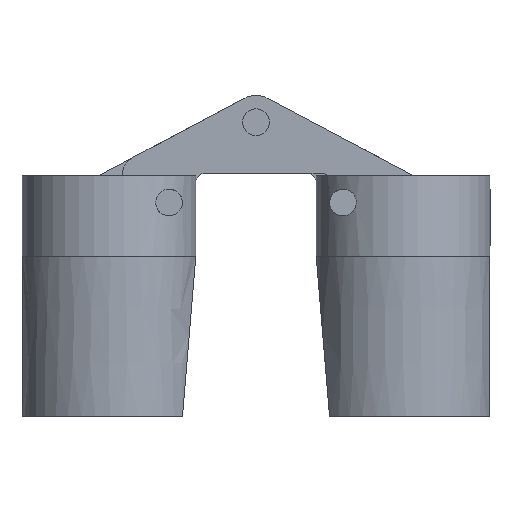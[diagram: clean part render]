
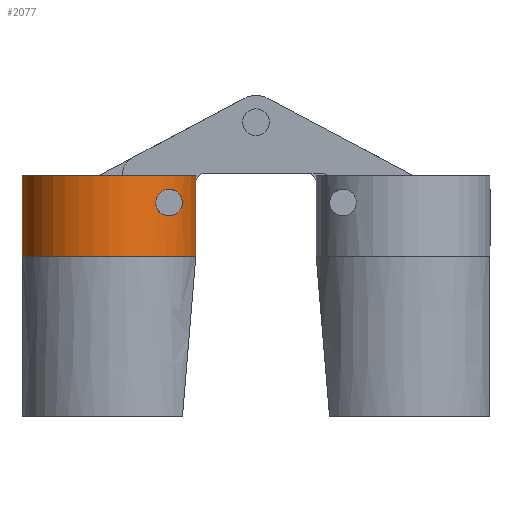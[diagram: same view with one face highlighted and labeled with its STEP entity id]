
A CAD part, front view. The second image highlights one B-rep face of the part: STEP entity #2077.
In plain terms, the highlighted cylindrical face has radius 6.5 mm (diameter 13 mm), a partial arc.
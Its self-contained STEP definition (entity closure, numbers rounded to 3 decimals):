
#242 = CIRCLE ( 'NONE', #781, 6.5 ) ;
#270 = CIRCLE ( 'NONE', #780, 6.5 ) ;
#274 = LINE ( 'NONE', #3056, #305 ) ;
#305 = VECTOR ( 'NONE', #3011, 1000. ) ;
#362 = VERTEX_POINT ( 'NONE', #1120 ) ;
#375 = VERTEX_POINT ( 'NONE', #1170 ) ;
#419 = VERTEX_POINT ( 'NONE', #1433 ) ;
#451 = VERTEX_POINT ( 'NONE', #1430 ) ;
#459 = VERTEX_POINT ( 'NONE', #1421 ) ;
#461 = VERTEX_POINT ( 'NONE', #1440 ) ;
#544 = FACE_OUTER_BOUND ( 'NONE', #1694, .T. ) ;
#554 = CYLINDRICAL_SURFACE ( 'NONE', #803, 6.5 ) ;
#561 = FACE_BOUND ( 'NONE', #1882, .T. ) ;
#689 = EDGE_CURVE ( 'NONE', #451, #461, #1446, .T. ) ;
#701 = EDGE_CURVE ( 'NONE', #375, #362, #270, .T. ) ;
#703 = EDGE_CURVE ( 'NONE', #419, #459, #242, .T. ) ;
#718 = EDGE_CURVE ( 'NONE', #419, #375, #274, .T. ) ;
#780 = AXIS2_PLACEMENT_3D ( 'NONE', #2957, #2295, #2713 ) ;
#781 = AXIS2_PLACEMENT_3D ( 'NONE', #2986, #2857, #2641 ) ;
#803 = AXIS2_PLACEMENT_3D ( 'NONE', #2620, #2874, #2544 ) ;
#1120 = CARTESIAN_POINT ( 'NONE',  ( -6.5, 23.5, -0.5 ) ) ;
#1170 = CARTESIAN_POINT ( 'NONE',  ( 6.5, 23.5, -0.5 ) ) ;
#1237 = CARTESIAN_POINT ( 'NONE',  ( -4.5, 28.19, -3.5 ) ) ;
#1244 = CARTESIAN_POINT ( 'NONE',  ( -4.391, 28.295, -3.5 ) ) ;
#1248 = CARTESIAN_POINT ( 'NONE',  ( -4.278, 28.396, -3.482 ) ) ;
#1260 = CARTESIAN_POINT ( 'NONE',  ( -4.057, 28.58, -3.404 ) ) ;
#1262 = CARTESIAN_POINT ( 'NONE',  ( -3.946, 28.667, -3.343 ) ) ;
#1263 = CARTESIAN_POINT ( 'NONE',  ( -3.747, 28.812, -3.171 ) ) ;
#1270 = CARTESIAN_POINT ( 'NONE',  ( -3.659, 28.873, -3.06 ) ) ;
#1271 = CARTESIAN_POINT ( 'NONE',  ( -3.534, 28.956, -2.798 ) ) ;
#1285 = CARTESIAN_POINT ( 'NONE',  ( -3.5, 28.977, -2.648 ) ) ;
#1289 = CARTESIAN_POINT ( 'NONE',  ( -3.5, 28.977, -2.348 ) ) ;
#1292 = CARTESIAN_POINT ( 'NONE',  ( -3.535, 28.955, -2.199 ) ) ;
#1293 = CARTESIAN_POINT ( 'NONE',  ( -3.661, 28.872, -1.937 ) ) ;
#1301 = CARTESIAN_POINT ( 'NONE',  ( -3.749, 28.811, -1.827 ) ) ;
#1312 = CARTESIAN_POINT ( 'NONE',  ( -3.947, 28.666, -1.656 ) ) ;
#1316 = CARTESIAN_POINT ( 'NONE',  ( -4.059, 28.579, -1.595 ) ) ;
#1332 = CARTESIAN_POINT ( 'NONE',  ( -4.5, 28.19, -1.5 ) ) ;
#1376 = CARTESIAN_POINT ( 'NONE',  ( -4.393, 28.293, -1.5 ) ) ;
#1393 = CARTESIAN_POINT ( 'NONE',  ( -4.28, 28.394, -1.518 ) ) ;
#1421 = CARTESIAN_POINT ( 'NONE',  ( -6.5, 23.5, -6.5 ) ) ;
#1430 = CARTESIAN_POINT ( 'NONE',  ( -4.5, 28.19, -1.5 ) ) ;
#1433 = CARTESIAN_POINT ( 'NONE',  ( 6.5, 23.5, -6.5 ) ) ;
#1440 = CARTESIAN_POINT ( 'NONE',  ( -4.5, 28.19, -3.5 ) ) ;
#1446 = B_SPLINE_CURVE_WITH_KNOTS ( 'NONE', 3,
 ( #1332, #1376, #1393, #1316, #1312, #1301, #1293, #1292, #1289, #1285, #1271, #1270, #1263, #1262, #1260, #1248, #1244, #1237 ),
 .UNSPECIFIED., .F., .F.,
 ( 4, 2, 2, 2, 2, 2, 2, 2, 4 ),
 ( 0.004, 0.004, 0.005, 0.005, 0.006, 0.006, 0.007, 0.007, 0.008 ),
 .UNSPECIFIED. ) ;
#1694 = EDGE_LOOP ( 'NONE', ( #3437, #3420, #3340, #3433 ) ) ;
#1709 = ORIENTED_EDGE ( 'NONE', *, *, #689, .F. ) ;
#1882 = EDGE_LOOP ( 'NONE', ( #3357, #1709 ) ) ;
#1993 = EDGE_CURVE ( 'NONE', #362, #459, #3930, .T. ) ;
#2056 = B_SPLINE_CURVE_WITH_KNOTS ( 'NONE', 3,
 ( #2491, #2889, #2590, #2402, #2829, #2677, #2667, #2205, #2464, #2433, #2360, #2396, #2438, #2358, #2443, #2806, #2797, #2482, #2337, #2479, #2480, #2334, #2333, #2474 ),
 .UNSPECIFIED., .F., .F.,
 ( 4, 2, 2, 2, 2, 2, 2, 2, 2, 2, 2, 4 ),
 ( 0., 0.001, 0.001, 0.001, 0.002, 0.002, 0.002, 0.002, 0.003, 0.003, 0.004, 0.004 ),
 .UNSPECIFIED. ) ;
#2077 = ADVANCED_FACE ( 'NONE', ( #561, #544 ), #554, .T. ) ;
#2156 = EDGE_CURVE ( 'NONE', #461, #451, #2056, .T. ) ;
#2205 = CARTESIAN_POINT ( 'NONE',  ( -5.319, 27.237, -3.077 ) ) ;
#2295 = DIRECTION ( 'NONE',  ( 0., 0., 1. ) ) ;
#2333 = CARTESIAN_POINT ( 'NONE',  ( -4.622, 28.074, -1.5 ) ) ;
#2334 = CARTESIAN_POINT ( 'NONE',  ( -4.739, 27.952, -1.522 ) ) ;
#2337 = CARTESIAN_POINT ( 'NONE',  ( -5.243, 27.345, -1.82 ) ) ;
#2358 = CARTESIAN_POINT ( 'NONE',  ( -5.5, 26.964, -2.417 ) ) ;
#2360 = CARTESIAN_POINT ( 'NONE',  ( -5.449, 27.044, -2.826 ) ) ;
#2396 = CARTESIAN_POINT ( 'NONE',  ( -5.488, 26.983, -2.673 ) ) ;
#2402 = CARTESIAN_POINT ( 'NONE',  ( -4.957, 27.707, -3.397 ) ) ;
#2419 = CARTESIAN_POINT ( 'NONE',  ( -6.5, 23.5, -6.5 ) ) ;
#2433 = CARTESIAN_POINT ( 'NONE',  ( -5.421, 27.087, -2.896 ) ) ;
#2438 = CARTESIAN_POINT ( 'NONE',  ( -5.5, 26.964, -2.588 ) ) ;
#2443 = CARTESIAN_POINT ( 'NONE',  ( -5.489, 26.982, -2.332 ) ) ;
#2464 = CARTESIAN_POINT ( 'NONE',  ( -5.356, 27.183, -3.021 ) ) ;
#2474 = CARTESIAN_POINT ( 'NONE',  ( -4.5, 28.19, -1.5 ) ) ;
#2479 = CARTESIAN_POINT ( 'NONE',  ( -5.06, 27.583, -1.662 ) ) ;
#2480 = CARTESIAN_POINT ( 'NONE',  ( -4.959, 27.705, -1.604 ) ) ;
#2482 = CARTESIAN_POINT ( 'NONE',  ( -5.325, 27.229, -1.917 ) ) ;
#2491 = CARTESIAN_POINT ( 'NONE',  ( -4.5, 28.19, -3.5 ) ) ;
#2544 = DIRECTION ( 'NONE',  ( 1., 0., 0. ) ) ;
#2590 = CARTESIAN_POINT ( 'NONE',  ( -4.739, 27.952, -3.478 ) ) ;
#2620 = CARTESIAN_POINT ( 'NONE',  ( 0., 23.5, -6.5 ) ) ;
#2641 = DIRECTION ( 'NONE',  ( 1., 0., 0. ) ) ;
#2667 = CARTESIAN_POINT ( 'NONE',  ( -5.239, 27.348, -3.177 ) ) ;
#2677 = CARTESIAN_POINT ( 'NONE',  ( -5.196, 27.406, -3.221 ) ) ;
#2713 = DIRECTION ( 'NONE',  ( 1., 0., 0. ) ) ;
#2789 = DIRECTION ( 'NONE',  ( 0., 0., -1. ) ) ;
#2797 = CARTESIAN_POINT ( 'NONE',  ( -5.422, 27.085, -2.107 ) ) ;
#2806 = CARTESIAN_POINT ( 'NONE',  ( -5.45, 27.043, -2.176 ) ) ;
#2829 = CARTESIAN_POINT ( 'NONE',  ( -5.06, 27.583, -3.337 ) ) ;
#2857 = DIRECTION ( 'NONE',  ( 0., 0., 1. ) ) ;
#2874 = DIRECTION ( 'NONE',  ( 0., 0., 1. ) ) ;
#2889 = CARTESIAN_POINT ( 'NONE',  ( -4.623, 28.072, -3.5 ) ) ;
#2957 = CARTESIAN_POINT ( 'NONE',  ( 0., 23.5, -0.5 ) ) ;
#2986 = CARTESIAN_POINT ( 'NONE',  ( 0., 23.5, -6.5 ) ) ;
#3011 = DIRECTION ( 'NONE',  ( 0., 0., 1. ) ) ;
#3056 = CARTESIAN_POINT ( 'NONE',  ( 6.5, 23.5, -6.5 ) ) ;
#3340 = ORIENTED_EDGE ( 'NONE', *, *, #718, .F. ) ;
#3357 = ORIENTED_EDGE ( 'NONE', *, *, #2156, .F. ) ;
#3420 = ORIENTED_EDGE ( 'NONE', *, *, #701, .F. ) ;
#3433 = ORIENTED_EDGE ( 'NONE', *, *, #703, .T. ) ;
#3437 = ORIENTED_EDGE ( 'NONE', *, *, #1993, .F. ) ;
#3922 = VECTOR ( 'NONE', #2789, 1000. ) ;
#3930 = LINE ( 'NONE', #2419, #3922 ) ;
